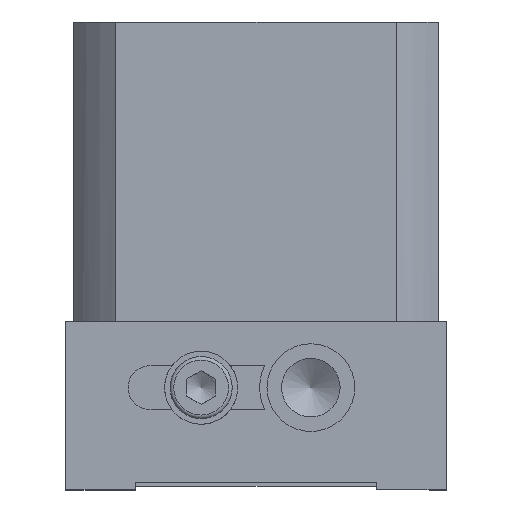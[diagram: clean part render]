
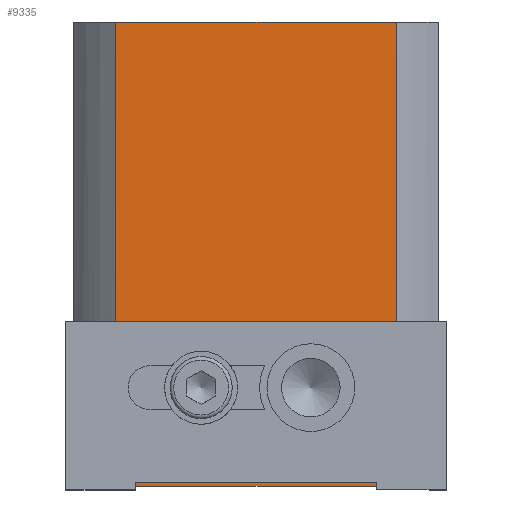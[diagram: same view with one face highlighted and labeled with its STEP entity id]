
A CAD part, left-side view. The second image highlights one B-rep face of the part: STEP entity #9335.
In plain terms, the highlighted planar face has unit normal (-1, 0, 0).
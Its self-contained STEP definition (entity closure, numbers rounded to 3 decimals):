
#823=CARTESIAN_POINT('',(-25.,32.5,-44.0));
#824=VERTEX_POINT('',#823);
#825=CARTESIAN_POINT('',(-25.,32.5,-50.0));
#826=DIRECTION('',(-1.0,0.0,0.0));
#827=DIRECTION('',(0.0,1.0,0.0));
#828=AXIS2_PLACEMENT_3D('',#825,#826,#827);
#829=CIRCLE('',#828,6.);
#830=EDGE_CURVE('',#824,#824,#829,.T.);
#1058=CARTESIAN_POINT('',(-25.,17.5,-44.0));
#1059=VERTEX_POINT('',#1058);
#1060=CARTESIAN_POINT('',(-25.,17.5,-50.0));
#1061=DIRECTION('',(-1.0,0.0,0.0));
#1062=DIRECTION('',(0.0,-1.0,0.0));
#1063=AXIS2_PLACEMENT_3D('',#1060,#1061,#1062);
#1064=CIRCLE('',#1063,6.);
#1065=EDGE_CURVE('',#1059,#1059,#1064,.T.);
#7618=CARTESIAN_POINT('',(-25.,5.836,-63.5));
#7619=VERTEX_POINT('',#7618);
#7627=CARTESIAN_POINT('',(-25.,44.164,-63.5));
#7628=VERTEX_POINT('',#7627);
#7629=CARTESIAN_POINT('',(-25.,44.164,-63.5));
#7630=DIRECTION('',(0.0,-1.0,0.0));
#7631=VECTOR('',#7630,38.328);
#7632=LINE('',#7629,#7631);
#7633=EDGE_CURVE('',#7628,#7619,#7632,.T.);
#8389=CARTESIAN_POINT('',(-25.,44.164,0.0));
#8390=VERTEX_POINT('',#8389);
#8398=CARTESIAN_POINT('',(-25.,5.836,0.0));
#8399=VERTEX_POINT('',#8398);
#8400=CARTESIAN_POINT('',(-25.,44.164,0.0));
#8401=DIRECTION('',(0.0,-1.0,0.0));
#8402=VECTOR('',#8401,38.328);
#8403=LINE('',#8400,#8402);
#8404=EDGE_CURVE('',#8390,#8399,#8403,.T.);
#9235=CARTESIAN_POINT('',(-25.,5.836,0.0));
#9236=DIRECTION('',(0.0,0.0,-1.0));
#9237=VECTOR('',#9236,63.5);
#9238=LINE('',#9235,#9237);
#9239=EDGE_CURVE('',#8399,#7619,#9238,.T.);
#9305=CARTESIAN_POINT('',(-25.,44.164,0.0));
#9306=DIRECTION('',(0.0,0.0,-1.0));
#9307=VECTOR('',#9306,63.5);
#9308=LINE('',#9305,#9307);
#9309=EDGE_CURVE('',#8390,#7628,#9308,.T.);
#9318=CARTESIAN_POINT('',(-25.,44.164,0.0));
#9319=DIRECTION('',(-1.0,0.0,0.0));
#9320=DIRECTION('',(0.0,0.0,1.0));
#9321=AXIS2_PLACEMENT_3D('',#9318,#9319,#9320);
#9322=PLANE('',#9321);
#9323=ORIENTED_EDGE('',*,*,#9239,.F.);
#9324=ORIENTED_EDGE('',*,*,#8404,.F.);
#9325=ORIENTED_EDGE('',*,*,#9309,.T.);
#9326=ORIENTED_EDGE('',*,*,#7633,.T.);
#9327=EDGE_LOOP('',(#9323,#9324,#9325,#9326));
#9328=FACE_OUTER_BOUND('',#9327,.T.);
#9329=ORIENTED_EDGE('',*,*,#830,.F.);
#9330=EDGE_LOOP('',(#9329));
#9331=FACE_BOUND('',#9330,.T.);
#9332=ORIENTED_EDGE('',*,*,#1065,.F.);
#9333=EDGE_LOOP('',(#9332));
#9334=FACE_BOUND('',#9333,.T.);
#9335=ADVANCED_FACE('',(#9328,#9331,#9334),#9322,.T.);
